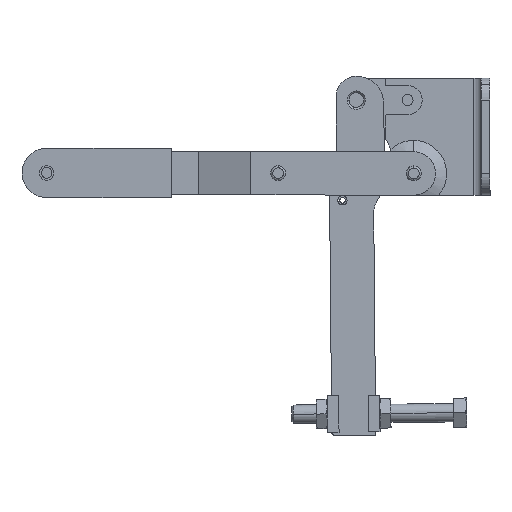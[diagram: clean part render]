
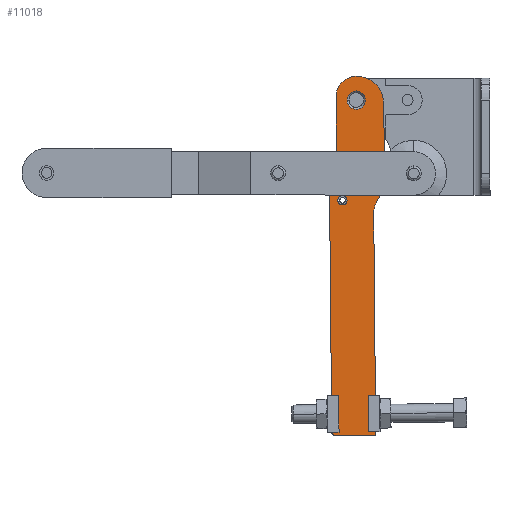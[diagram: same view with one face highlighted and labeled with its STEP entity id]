
A CAD part, left-side view. The second image highlights one B-rep face of the part: STEP entity #11018.
In plain terms, the highlighted free-form (B-spline) face has degree [1, 1] with [2, 2] control points.
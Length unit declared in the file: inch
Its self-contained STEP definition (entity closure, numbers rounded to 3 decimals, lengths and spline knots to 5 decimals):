
#10510=CARTESIAN_POINT('',(3.23503,0.06752,0.719));
#10511=VERTEX_POINT('',#10510);
#10527=CARTESIAN_POINT('',(3.39103,0.06752,0.719));
#10528=VERTEX_POINT('',#10527);
#10535=CARTESIAN_POINT('',(3.31303,0.06752,0.719));
#10536=DIRECTION('',(0.0,1.0,0.0));
#10537=DIRECTION('',(-1.0,0.0,0.0));
#10538=AXIS2_PLACEMENT_3D('',#10535,#10536,#10537);
#10539=CIRCLE('',#10538,0.078);
#10540=EDGE_CURVE('',#10528,#10511,#10539,.T.);
#10573=CARTESIAN_POINT('',(7.30657,0.06752,0.91955));
#10574=VERTEX_POINT('',#10573);
#10590=CARTESIAN_POINT('',(7.32503,0.06752,0.875));
#10591=VERTEX_POINT('',#10590);
#10598=CARTESIAN_POINT('',(7.26203,0.06752,0.875));
#10599=DIRECTION('',(0.0,1.,0.0));
#10600=DIRECTION('',(0.707,0.0,0.707));
#10601=AXIS2_PLACEMENT_3D('',#10598,#10599,#10600);
#10602=CIRCLE('',#10601,0.063);
#10603=EDGE_CURVE('',#10574,#10591,#10602,.T.);
#10697=CARTESIAN_POINT('',(1.45003,0.06752,0.469));
#10698=VERTEX_POINT('',#10697);
#10706=CARTESIAN_POINT('',(1.76203,0.06752,0.469));
#10707=VERTEX_POINT('',#10706);
#10714=CARTESIAN_POINT('',(1.60603,0.06752,0.469));
#10715=DIRECTION('',(0.0,-1.0,0.0));
#10716=DIRECTION('',(-1.0,0.0,0.0));
#10717=AXIS2_PLACEMENT_3D('',#10714,#10715,#10716);
#10718=CIRCLE('',#10717,0.156);
#10719=EDGE_CURVE('',#10698,#10707,#10718,.T.);
#10813=CARTESIAN_POINT('',(2.70003,0.06752,0.563));
#10814=VERTEX_POINT('',#10813);
#10822=CARTESIAN_POINT('',(3.01203,0.06752,0.563));
#10823=VERTEX_POINT('',#10822);
#10830=CARTESIAN_POINT('',(2.85603,0.06752,0.563));
#10831=DIRECTION('',(0.0,-1.0,0.0));
#10832=DIRECTION('',(-1.0,0.0,0.0));
#10833=AXIS2_PLACEMENT_3D('',#10830,#10831,#10832);
#10834=CIRCLE('',#10833,0.156);
#10835=EDGE_CURVE('',#10814,#10823,#10834,.T.);
#10867=CARTESIAN_POINT('',(2.85603,0.06752,0.563));
#10868=DIRECTION('',(0.0,-1.0,0.0));
#10869=DIRECTION('',(-1.0,0.0,0.0));
#10870=AXIS2_PLACEMENT_3D('',#10867,#10868,#10869);
#10871=CIRCLE('',#10870,0.156);
#10872=EDGE_CURVE('',#10823,#10814,#10871,.T.);
#10885=CARTESIAN_POINT('',(7.32503,0.06752,0.938));
#10886=CARTESIAN_POINT('',(7.32503,0.06752,0.0));
#10887=CARTESIAN_POINT('',(1.20003,0.06752,0.938));
#10888=CARTESIAN_POINT('',(1.20003,0.06752,0.0));
#10889=B_SPLINE_SURFACE_WITH_KNOTS('',1,1,((#10885,#10887),(#10886,#10888)),.UNSPECIFIED.,.F.,.F.,.U.,(2,2),(2,2),(0.0,0.938),(0.0,6.125),.UNSPECIFIED.);
#10890=CARTESIAN_POINT('',(7.26203,0.06752,0.938));
#10891=VERTEX_POINT('',#10890);
#10892=CARTESIAN_POINT('',(7.26203,0.06752,0.875));
#10893=DIRECTION('',(0.0,1.,0.0));
#10894=DIRECTION('',(0.707,0.0,0.707));
#10895=AXIS2_PLACEMENT_3D('',#10892,#10893,#10894);
#10896=CIRCLE('',#10895,0.063);
#10897=EDGE_CURVE('',#10891,#10574,#10896,.T.);
#10898=ORIENTED_EDGE('',*,*,#10897,.T.);
#10899=ORIENTED_EDGE('',*,*,#10603,.T.);
#10900=CARTESIAN_POINT('',(7.32503,0.06752,0.188));
#10901=VERTEX_POINT('',#10900);
#10902=CARTESIAN_POINT('',(7.32503,0.06752,0.188));
#10903=DIRECTION('',(0.0,0.0,1.0));
#10904=VECTOR('',#10903,0.687);
#10905=LINE('',#10902,#10904);
#10906=EDGE_CURVE('',#10901,#10591,#10905,.T.);
#10907=ORIENTED_EDGE('',*,*,#10906,.F.);
#10908=CARTESIAN_POINT('',(3.53304,0.06752,0.188));
#10909=VERTEX_POINT('',#10908);
#10910=CARTESIAN_POINT('',(3.53304,0.06752,0.188));
#10911=DIRECTION('',(1.0,0.0,0.0));
#10912=VECTOR('',#10911,3.79199);
#10913=LINE('',#10910,#10912);
#10914=EDGE_CURVE('',#10909,#10901,#10913,.T.);
#10915=ORIENTED_EDGE('',*,*,#10914,.F.);
#10916=CARTESIAN_POINT('',(3.33968,0.06752,0.13431));
#10917=VERTEX_POINT('',#10916);
#10918=CARTESIAN_POINT('',(3.53304,0.06752,-0.187));
#10919=DIRECTION('',(0.0,1.0,0.0));
#10920=DIRECTION('',(0.0,0.0,-1.0));
#10921=AXIS2_PLACEMENT_3D('',#10918,#10919,#10920);
#10922=CIRCLE('',#10921,0.375);
#10923=EDGE_CURVE('',#10917,#10909,#10922,.T.);
#10924=ORIENTED_EDGE('',*,*,#10923,.F.);
#10925=CARTESIAN_POINT('',(2.85603,0.06752,0.0));
#10926=VERTEX_POINT('',#10925);
#10927=CARTESIAN_POINT('',(2.85603,0.06752,0.938));
#10928=DIRECTION('',(0.0,-1.0,0.0));
#10929=DIRECTION('',(0.0,0.0,-1.0));
#10930=AXIS2_PLACEMENT_3D('',#10927,#10928,#10929);
#10931=CIRCLE('',#10930,0.938);
#10932=EDGE_CURVE('',#10926,#10917,#10931,.T.);
#10933=ORIENTED_EDGE('',*,*,#10932,.F.);
#10934=CARTESIAN_POINT('',(1.66903,0.06752,0.0));
#10935=VERTEX_POINT('',#10934);
#10936=CARTESIAN_POINT('',(1.66903,0.06752,0.0));
#10937=DIRECTION('',(1.0,0.0,0.0));
#10938=VECTOR('',#10937,1.187);
#10939=LINE('',#10936,#10938);
#10940=EDGE_CURVE('',#10935,#10926,#10939,.T.);
#10941=ORIENTED_EDGE('',*,*,#10940,.F.);
#10942=CARTESIAN_POINT('',(1.20003,0.06752,0.469));
#10943=VERTEX_POINT('',#10942);
#10944=CARTESIAN_POINT('',(1.66903,0.06752,0.469));
#10945=DIRECTION('',(0.0,-1.0,0.0));
#10946=DIRECTION('',(1.0,0.0,0.0));
#10947=AXIS2_PLACEMENT_3D('',#10944,#10945,#10946);
#10948=CIRCLE('',#10947,0.469);
#10949=EDGE_CURVE('',#10943,#10935,#10948,.T.);
#10950=ORIENTED_EDGE('',*,*,#10949,.F.);
#10951=CARTESIAN_POINT('',(1.54403,0.06752,0.813));
#10952=VERTEX_POINT('',#10951);
#10953=CARTESIAN_POINT('',(1.54403,0.06752,0.469));
#10954=DIRECTION('',(0.0,-1.0,0.0));
#10955=DIRECTION('',(0.0,0.0,-1.0));
#10956=AXIS2_PLACEMENT_3D('',#10953,#10954,#10955);
#10957=CIRCLE('',#10956,0.344);
#10958=EDGE_CURVE('',#10952,#10943,#10957,.T.);
#10959=ORIENTED_EDGE('',*,*,#10958,.F.);
#10960=CARTESIAN_POINT('',(2.44145,0.06752,0.813));
#10961=VERTEX_POINT('',#10960);
#10962=CARTESIAN_POINT('',(2.44145,0.06752,0.813));
#10963=DIRECTION('',(-1.0,0.0,0.0));
#10964=VECTOR('',#10963,0.89742);
#10965=LINE('',#10962,#10964);
#10966=EDGE_CURVE('',#10961,#10952,#10965,.T.);
#10967=ORIENTED_EDGE('',*,*,#10966,.F.);
#10968=CARTESIAN_POINT('',(2.64874,0.06752,0.8755));
#10969=VERTEX_POINT('',#10968);
#10970=CARTESIAN_POINT('',(2.44145,0.06752,1.188));
#10971=DIRECTION('',(0.0,1.0,0.0));
#10972=DIRECTION('',(0.0,0.0,-1.0));
#10973=AXIS2_PLACEMENT_3D('',#10970,#10971,#10972);
#10974=CIRCLE('',#10973,0.375);
#10975=EDGE_CURVE('',#10969,#10961,#10974,.T.);
#10976=ORIENTED_EDGE('',*,*,#10975,.F.);
#10977=CARTESIAN_POINT('',(2.85603,0.06752,0.938));
#10978=VERTEX_POINT('',#10977);
#10979=CARTESIAN_POINT('',(2.85603,0.06752,0.563));
#10980=DIRECTION('',(0.0,-1.0,0.0));
#10981=DIRECTION('',(0.0,0.0,-1.0));
#10982=AXIS2_PLACEMENT_3D('',#10979,#10980,#10981);
#10983=CIRCLE('',#10982,0.375);
#10984=EDGE_CURVE('',#10978,#10969,#10983,.T.);
#10985=ORIENTED_EDGE('',*,*,#10984,.F.);
#10986=CARTESIAN_POINT('',(7.26203,0.06752,0.938));
#10987=DIRECTION('',(-1.0,0.0,0.0));
#10988=VECTOR('',#10987,4.406);
#10989=LINE('',#10986,#10988);
#10990=EDGE_CURVE('',#10891,#10978,#10989,.T.);
#10991=ORIENTED_EDGE('',*,*,#10990,.F.);
#10992=EDGE_LOOP('',(#10898,#10899,#10907,#10915,#10924,#10933,#10941,#10950,#10959,#10967,#10976,#10985,#10991));
#10993=FACE_OUTER_BOUND('',#10992,.T.);
#10994=CARTESIAN_POINT('',(1.60603,0.06752,0.469));
#10995=DIRECTION('',(0.0,-1.0,0.0));
#10996=DIRECTION('',(-1.0,0.0,0.0));
#10997=AXIS2_PLACEMENT_3D('',#10994,#10995,#10996);
#10998=CIRCLE('',#10997,0.156);
#10999=EDGE_CURVE('',#10707,#10698,#10998,.T.);
#11000=ORIENTED_EDGE('',*,*,#10999,.T.);
#11001=ORIENTED_EDGE('',*,*,#10719,.T.);
#11002=EDGE_LOOP('',(#11000,#11001));
#11003=FACE_BOUND('',#11002,.T.);
#11004=ORIENTED_EDGE('',*,*,#10540,.F.);
#11005=CARTESIAN_POINT('',(3.31303,0.06752,0.719));
#11006=DIRECTION('',(0.0,1.0,0.0));
#11007=DIRECTION('',(-1.0,0.0,0.0));
#11008=AXIS2_PLACEMENT_3D('',#11005,#11006,#11007);
#11009=CIRCLE('',#11008,0.078);
#11010=EDGE_CURVE('',#10511,#10528,#11009,.T.);
#11011=ORIENTED_EDGE('',*,*,#11010,.F.);
#11012=EDGE_LOOP('',(#11004,#11011));
#11013=FACE_BOUND('',#11012,.T.);
#11014=ORIENTED_EDGE('',*,*,#10872,.T.);
#11015=ORIENTED_EDGE('',*,*,#10835,.T.);
#11016=EDGE_LOOP('',(#11014,#11015));
#11017=FACE_BOUND('',#11016,.T.);
#11018=ADVANCED_FACE('',(#10993,#11003,#11013,#11017),#10889,.T.);
